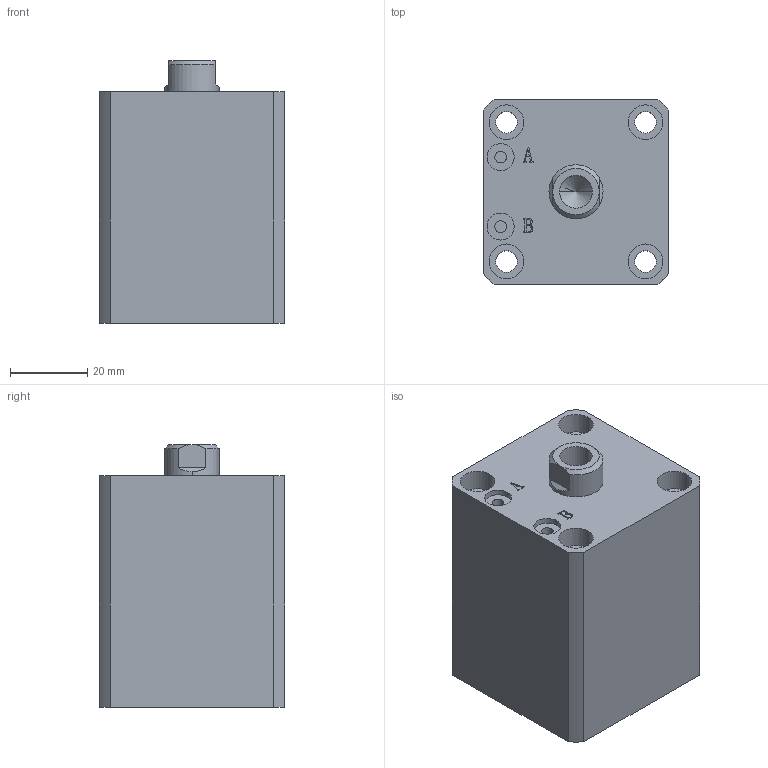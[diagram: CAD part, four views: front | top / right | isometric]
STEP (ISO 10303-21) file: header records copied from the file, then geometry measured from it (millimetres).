
FILE_DESCRIPTION (( 'STEP AP203' ), '1' );
FILE_NAME ('HTB-SDMA25-15N.STEP', '2019-10-07T10:51:01', ( '微软用户' ), ( '微软中国' ), 'SwSTEP 2.0', 'SolidWorks 2012', '' );
FILE_SCHEMA (( 'CONFIG_CONTROL_DESIGN' ));
Length unit declared in the file: millimetre
Products named in the file (3): HTB-SDMA25-15N; HTB-SDMA25-15N活塞杆; HTB-SDMA25-15掛极
Assembly tree (2 placements, depth 2):
  HTB-SDMA25-15N
    HTB-SDMA25-15掛极
    HTB-SDMA25-15N活塞杆
Bounding box: 48 x 48 x 68 mm (x, y, z)
Volume: 124455.5 mm3; surface area: 29068.6 mm2
Topology: 2 solids, 2 shells, 137 faces, 329 edges, 215 vertices
Faces by surface type: plane 65, cylinder 46, bspline 16, torus 6, cone 4
Entity records: 5072 total; most frequent: CARTESIAN_POINT 1592, ORIENTED_EDGE 654, DIRECTION 645, EDGE_CURVE 327, AXIS2_PLACEMENT_3D 232, VERTEX_POINT 215, VECTOR 181, LINE 181
